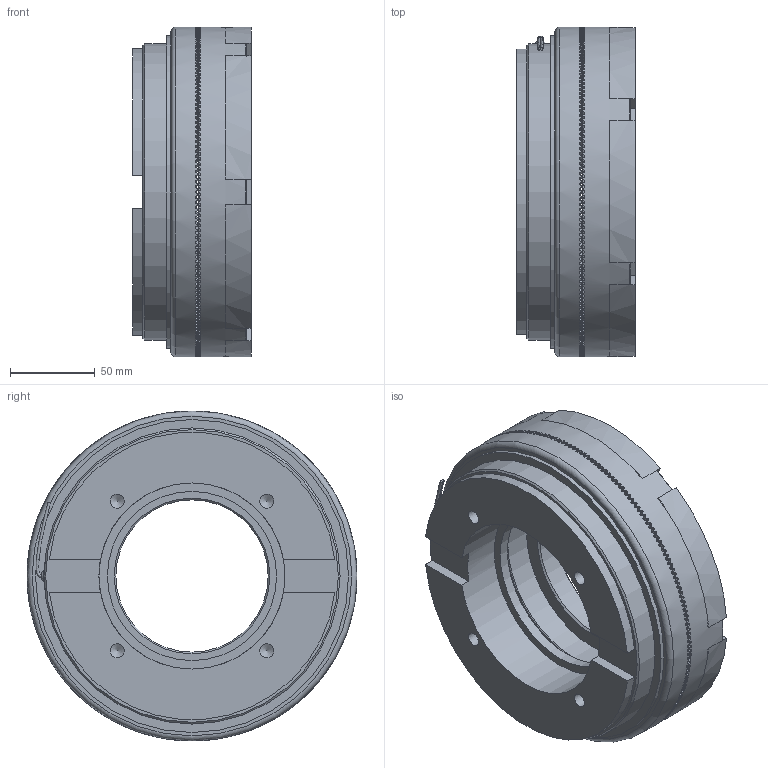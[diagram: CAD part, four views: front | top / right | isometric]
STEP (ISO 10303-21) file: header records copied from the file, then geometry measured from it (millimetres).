
FILE_DESCRIPTION(/* description */ (''),/* implementation_level */ '2;1');
FILE_NAME(/* name */ '\\Srv-tecnico\DATI\UFFICIO TECNICO\ARCHIVIO INVENTOR\DISEGNI\UFFICIO TECNICO\07_Innesti_Elettromagnetici_a_Dentini\07_09 EBLF_Z\07_09_195_01 EBLF195_Z\07_09_195_01 EBLF195_Z@STEP.stp',/* time_stamp */ '2015-04-09T11:13:38+02:00',/* author */ ('stefano'),/* organization */ (''),/* preprocessor_version */ 'ST-DEVELOPER v15.6',/* originating_system */ 'Autodesk Inventor 2015',/* authorisation */ '');
FILE_SCHEMA (('CONFIG_CONTROL_DESIGN'));
Products named in the file (1): 07_09_195_01 EBLF195_Z_Substitute_1
Bounding box: 70 x 195 x 195 mm (x, y, z)
Volume: 1147526.8 mm3; surface area: 195486.3 mm2
Topology: 4 solids, 4 shells, 1918 faces, 5591 edges, 3688 vertices
Faces by surface type: plane 1794, cylinder 94, cone 21, bspline 5, torus 4
Full cylindrical faces by diameter (mm): 4.917 x3, 5 x1, 6 x1, 7.9 x3, 8.376 x4, 8.5 x3, 12 x3, 13 x3, 90 x1, 100 x1, 110 x3, 136 x2, 160 x2, 175 x1, 178 x1, 181 x1, 182.5 x2, 185 x1, 195 x2
Entity records: 65698 total; most frequent: DIRECTION 12760, CARTESIAN_POINT 11897, ORIENTED_EDGE 11042, EDGE_CURVE 5519, AXIS2_PLACEMENT_3D 5365, VERTEX_POINT 3669, ELLIPSE 2427, LINE 2030
